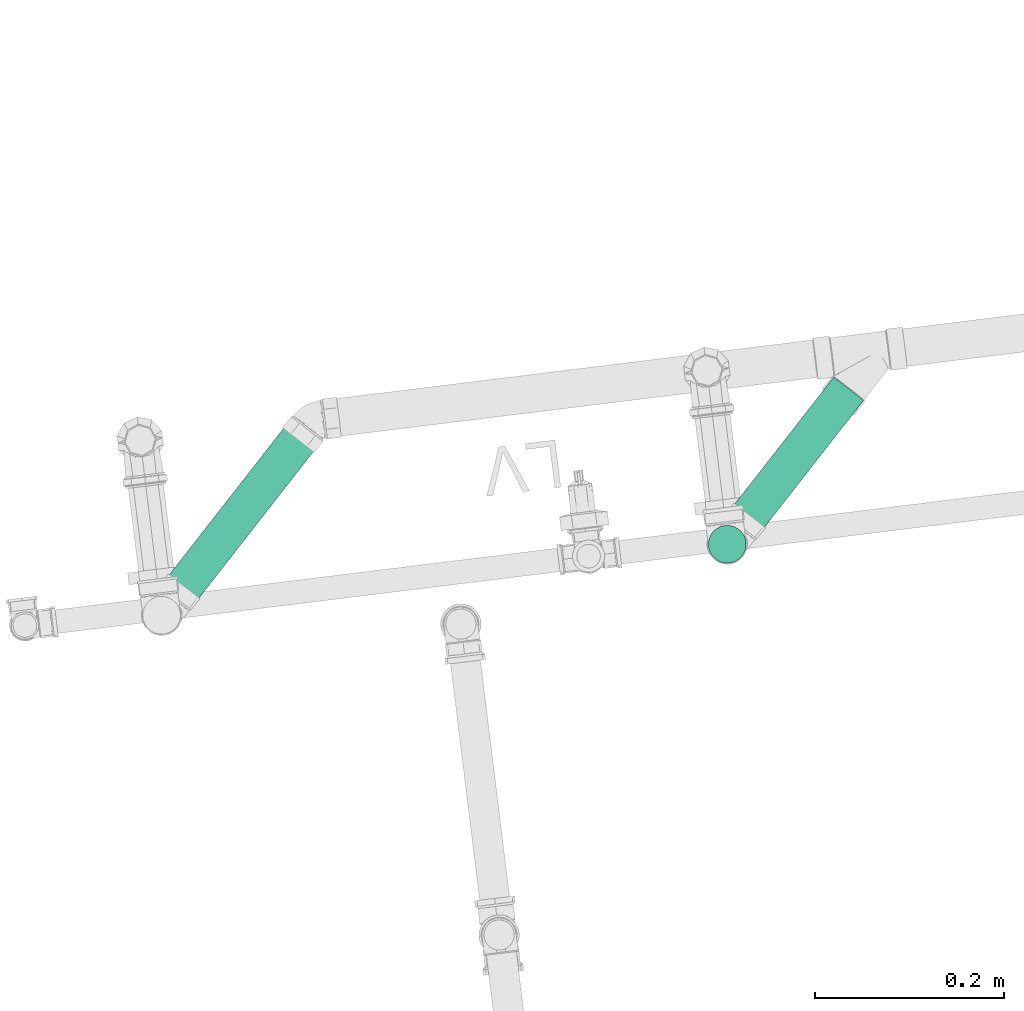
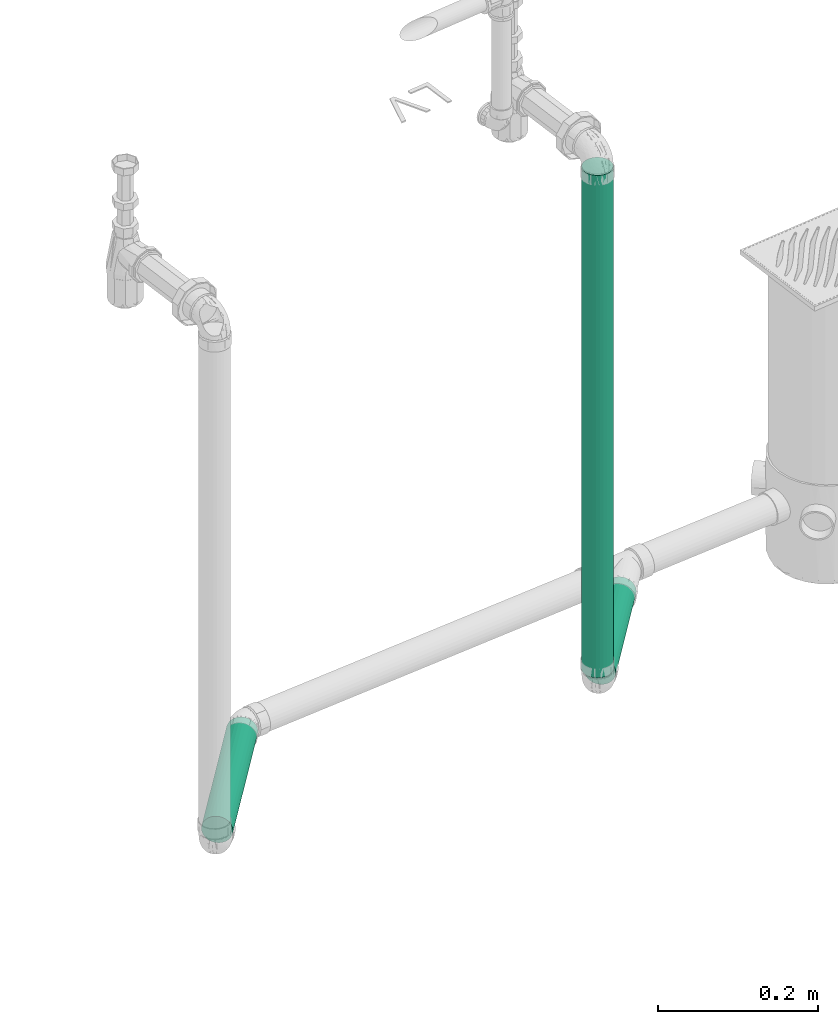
# One storey, part 51 of 97: 3 flow segments.
"""IFC2X3 building model written with IfcOpenShell, lengths in centimetres."""

from ifc_helpers import new_model, entity, si_unit, converted_unit, derived_unit, direction, frame, origin, origin_2d_with_axis, place, context, subcontext, project, spatial, circle, extrude, type_object, element, save


model = new_model("IFC2X3")

# Units and contexts
model_context = context("Model", 3, precision=0.001, world=origin(), true_north=direction((6.12303176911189e-17, 1.0)))
body_context = subcontext(model_context, "Body", "Model", "MODEL_VIEW")
ifc_project = project(units=[si_unit("LENGTHUNIT", "METRE", prefix="CENTI"), si_unit("AREAUNIT", "SQUARE_METRE"), si_unit("VOLUMEUNIT", "CUBIC_METRE"), converted_unit("PLANEANGLEUNIT", "DEGREE", entity("IfcRatioMeasure", 0.0174532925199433), si_unit("PLANEANGLEUNIT", "RADIAN"), dimensions=[0, 0, 0, 0, 0, 0, 0]), si_unit("MASSUNIT", "GRAM", prefix="KILO"), derived_unit("MASSDENSITYUNIT", [(si_unit("MASSUNIT", "GRAM", prefix="KILO"), 1), (si_unit("LENGTHUNIT", "METRE"), -3)]), derived_unit("MOMENTOFINERTIAUNIT", [(si_unit("LENGTHUNIT", "METRE"), 4)]), si_unit("TIMEUNIT", "SECOND"), si_unit("FREQUENCYUNIT", "HERTZ"), si_unit("THERMODYNAMICTEMPERATUREUNIT", "DEGREE_CELSIUS"), derived_unit("THERMALTRANSMITTANCEUNIT", [(si_unit("MASSUNIT", "GRAM", prefix="KILO"), 1), (si_unit("THERMODYNAMICTEMPERATUREUNIT", "KELVIN"), -1), (si_unit("TIMEUNIT", "SECOND"), -3)]), derived_unit("VOLUMETRICFLOWRATEUNIT", [(si_unit("LENGTHUNIT", "METRE"), 3), (si_unit("TIMEUNIT", "SECOND"), -1)]), si_unit("ELECTRICCURRENTUNIT", "AMPERE"), si_unit("ELECTRICVOLTAGEUNIT", "VOLT"), si_unit("POWERUNIT", "WATT"), si_unit("FORCEUNIT", "NEWTON", prefix="KILO"), si_unit("ILLUMINANCEUNIT", "LUX"), si_unit("LUMINOUSFLUXUNIT", "LUMEN"), si_unit("LUMINOUSINTENSITYUNIT", "CANDELA"), derived_unit("USERDEFINED", [(si_unit("MASSUNIT", "GRAM", prefix="KILO"), -1), (si_unit("LENGTHUNIT", "METRE"), -2), (si_unit("TIMEUNIT", "SECOND"), 3), (si_unit("LUMINOUSFLUXUNIT", "LUMEN"), 1)]), derived_unit("LINEARVELOCITYUNIT", [(si_unit("LENGTHUNIT", "METRE"), 1), (si_unit("TIMEUNIT", "SECOND"), -1)]), si_unit("PRESSUREUNIT", "PASCAL"), derived_unit("USERDEFINED", [(si_unit("LENGTHUNIT", "METRE"), -2), (si_unit("MASSUNIT", "GRAM", prefix="KILO"), 1), (si_unit("TIMEUNIT", "SECOND"), -2)]), derived_unit("LINEARFORCEUNIT", [(si_unit("MASSUNIT", "GRAM", prefix="KILO"), 1), (si_unit("LENGTHUNIT", "METRE"), 1), (si_unit("TIMEUNIT", "SECOND"), -2), (si_unit("LENGTHUNIT", "METRE"), -1)]), derived_unit("PLANARFORCEUNIT", [(si_unit("MASSUNIT", "GRAM", prefix="KILO"), 1), (si_unit("LENGTHUNIT", "METRE"), 1), (si_unit("TIMEUNIT", "SECOND"), -2), (si_unit("LENGTHUNIT", "METRE"), -2)])], contexts=[model_context])

# Site, building, storey
site_placement = place(None, origin())
site = spatial("IfcSite", under=ifc_project, at=site_placement, Name="Default", CompositionType="ELEMENT")
building_placement = place(site_placement, origin())
building = spatial("IfcBuilding", under=site, at=building_placement, Name="HIDROSSANITÁRIO", CompositionType="ELEMENT")
storey_placement = place(building_placement, frame((0.0, 0.0, -260.0)))
storey = spatial("IfcBuildingStorey", under=building, at=storey_placement, Name="TÉRREO-HID", CompositionType="ELEMENT", Elevation=-260.0)

# Flow segments
pipe_segment_type = type_object("IfcPipeSegmentType", Name="Tipos de tubos:Tubo - Esgoto - Série Normal", PredefinedType="NOTDEFINED")
flow_segment_1_placement = place(storey_placement, origin())
element("IfcFlowSegment", 1, at=flow_segment_1_placement, inside=storey, type_object=pipe_segment_type, Name="Tipos de tubos:Tubo - Esgoto - Série Normal", ObjectType="Tipos de tubos:Tubo - Esgoto - Série Normal", context=body_context, shape_type="SweptSolid", body=[
    extrude(circle(Radius=2.0, at=origin_2d_with_axis()), frame((-1640.41471424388, 3153.43422552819, -29.2644953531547)), (0.0, 0.0, 1.0), 76.8844953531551),
])
flow_segment_2_placement = place(storey_placement, origin())
element("IfcFlowSegment", 2, at=flow_segment_2_placement, inside=storey, type_object=pipe_segment_type, Name="Tipos de tubos:Tubo - Esgoto - Série Normal", ObjectType="Tipos de tubos:Tubo - Esgoto - Série Normal", context=body_context, shape_type="SweptSolid", body=[
    extrude(circle(Radius=2.0, at=origin_2d_with_axis()), frame((-1638.96782937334, 3155.28724283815, -31.2810424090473), z_axis=(0.615313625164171, 0.788028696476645, -0.0199979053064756), x_axis=(0.788186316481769, -0.615436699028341, 0.0)), (0.0, 0.0, 1.0), 18.4737068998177),
])
flow_segment_3_placement = place(storey_placement, origin())
element("IfcFlowSegment", 3, at=flow_segment_3_placement, inside=storey, type_object=pipe_segment_type, Name="Tipos de tubos:Tubo - Esgoto - Série Normal", ObjectType="Tipos de tubos:Tubo - Esgoto - Série Normal", context=body_context, shape_type="SweptSolid", body=[
    extrude(circle(Radius=2.0, at=origin_2d_with_axis()), frame((-1684.80627056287, 3165.61826399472, -30.5175070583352), z_axis=(-0.615313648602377, -0.788028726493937, 0.0199960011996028), x_axis=(0.788186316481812, -0.615436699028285, 0.0)), (0.0, 0.0, 1.0), 22.5964010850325),
])

save(model, "model.ifc")
